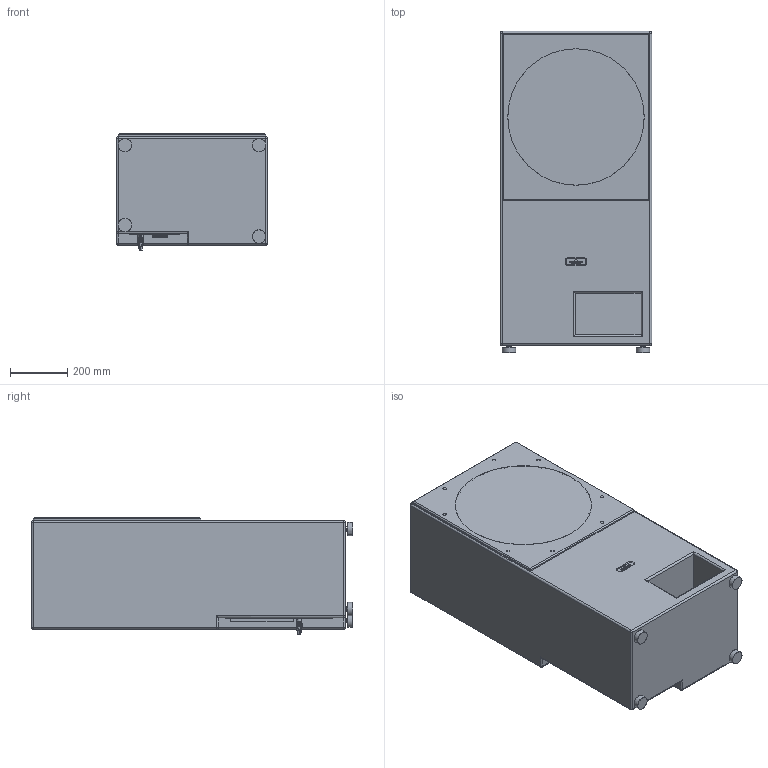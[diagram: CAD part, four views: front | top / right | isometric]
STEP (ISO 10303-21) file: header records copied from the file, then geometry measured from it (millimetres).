
FILE_DESCRIPTION(/* description */ (''),/* implementation_level */ '2;1');
FILE_NAME(/* name */ '3D_THE18 SUB PRO ACTIVE VENTED_Public_SI_Plug.step',/* time_stamp */ '2025-03-28T11:14:52+01:00',/* author */ (''),/* organization */ (''),/* preprocessor_version */ 'ST-DEVELOPER v20.1',/* originating_system */ 'Autodesk Translation Framework v14.4.0.0',/* authorisation */ '');
FILE_SCHEMA (('AUTOMOTIVE_DESIGN { 1 0 10303 214 3 1 1 }'));
Products named in the file (4): The18 Sub PRO PASSIVE SEALED_COMBINE; THE 18 SUB PRO PCV_Public; COMBINE_Grille_with_Cloth; 30010466
Assembly tree (3 placements, depth 2):
  The18 Sub PRO PASSIVE SEALED_COMBINE
    THE 18 SUB PRO PCV_Public
    COMBINE_Grille_with_Cloth
    30010466
Bounding box: 530 x 1125 x 408.34 mm (x, y, z)
Volume: 203306258.2 mm3; surface area: 3701173.5 mm2
Topology: 3 solids, 46 shells, 2413 faces, 6283 edges, 4131 vertices
Faces by surface type: plane 1264, bspline 714, cylinder 295, cone 80, torus 46, sphere 14
Full cylindrical faces by diameter (mm): 2.38 x3, 2.5 x6, 3.5 x1, 4.5 x2, 6.701 x3, 7 x12, 8 x15, 12 x32, 12.4 x5, 12.5 x5, 13 x8, 14 x3, 15 x2, 19 x1, 20 x2, 20.3 x1, 24 x1, 47 x4, 166 x1, 422 x1, 430 x1, 466 x1, 470 x1, 478 x1
Entity records: 102058 total; most frequent: CARTESIAN_POINT 45230, ORIENTED_EDGE 12622, DIRECTION 10190, EDGE_CURVE 6311, VERTEX_POINT 4131, LINE 3650, VECTOR 3650, AXIS2_PLACEMENT_3D 3270
